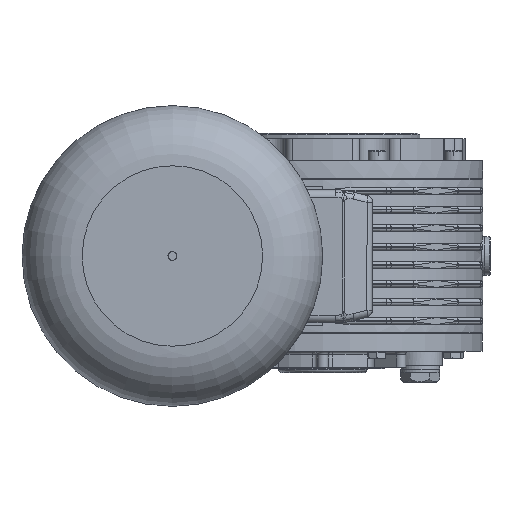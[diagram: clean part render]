
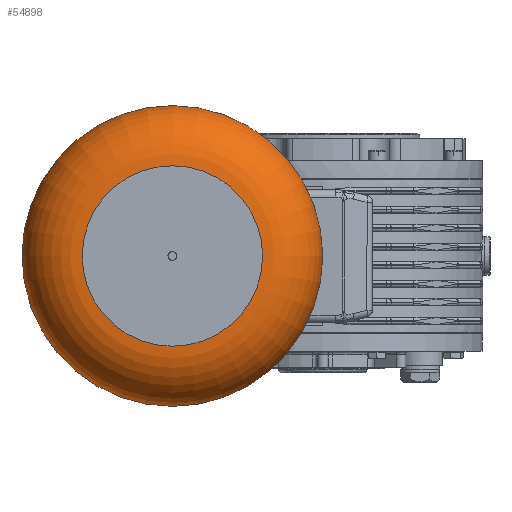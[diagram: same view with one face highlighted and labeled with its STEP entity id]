
A CAD part, left-side view. The second image highlights one B-rep face of the part: STEP entity #54898.
In plain terms, the highlighted toroidal (fillet/blend) face has major radius 51 mm and minor radius 34 mm.
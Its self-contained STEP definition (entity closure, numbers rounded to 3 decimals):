
#54871=CARTESIAN_POINT('',(346.0,0.0,0.0));
#54872=DIRECTION('',(1.0,0.0,0.0));
#54873=DIRECTION('',(0.0,0.0,-1.0));
#54874=AXIS2_PLACEMENT_3D('',#54871,#54872,#54873);
#54875=TOROIDAL_SURFACE('',#54874,51.,34.0);
#54876=CARTESIAN_POINT('',(380.0,51.,0.0));
#54877=VERTEX_POINT('',#54876);
#54878=CARTESIAN_POINT('',(380.0,0.0,0.0));
#54879=DIRECTION('',(1.0,0.0,0.0));
#54880=DIRECTION('',(0.0,1.0,0.0));
#54881=AXIS2_PLACEMENT_3D('',#54878,#54879,#54880);
#54882=CIRCLE('',#54881,51.);
#54883=EDGE_CURVE('',#54877,#54877,#54882,.T.);
#54884=ORIENTED_EDGE('',*,*,#54883,.F.);
#54885=EDGE_LOOP('',(#54884));
#54886=FACE_OUTER_BOUND('',#54885,.T.);
#54887=CARTESIAN_POINT('',(346.0,85.,0.0));
#54888=VERTEX_POINT('',#54887);
#54889=CARTESIAN_POINT('',(346.0,0.0,0.0));
#54890=DIRECTION('',(1.0,0.0,0.0));
#54891=DIRECTION('',(0.0,1.0,0.0));
#54892=AXIS2_PLACEMENT_3D('',#54889,#54890,#54891);
#54893=CIRCLE('',#54892,85.);
#54894=EDGE_CURVE('',#54888,#54888,#54893,.T.);
#54895=ORIENTED_EDGE('',*,*,#54894,.T.);
#54896=EDGE_LOOP('',(#54895));
#54897=FACE_BOUND('',#54896,.T.);
#54898=ADVANCED_FACE('',(#54886,#54897),#54875,.T.);
